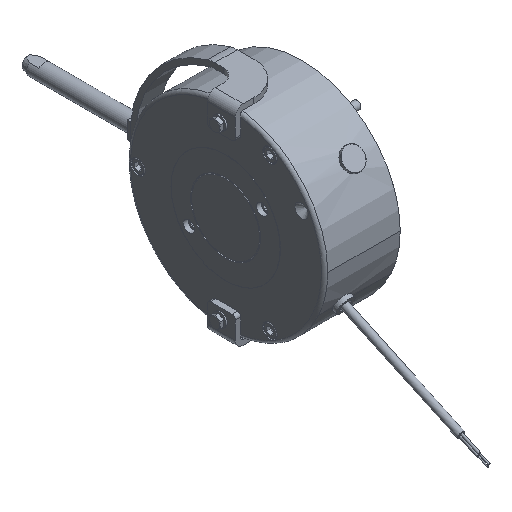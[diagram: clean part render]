
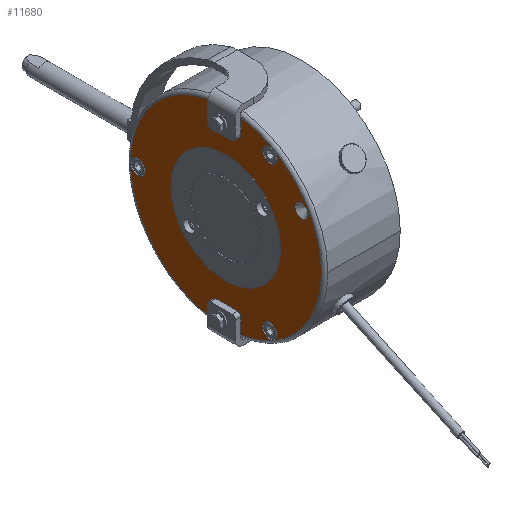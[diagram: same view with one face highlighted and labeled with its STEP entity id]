
A CAD part, isometric view. The second image highlights one B-rep face of the part: STEP entity #11680.
In plain terms, the highlighted planar face has unit normal (-1, 0, 0).
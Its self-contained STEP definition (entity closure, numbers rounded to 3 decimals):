
#781=FACE_BOUND('',#2700,.T.);
#782=FACE_BOUND('',#2701,.T.);
#783=FACE_BOUND('',#2702,.T.);
#784=FACE_BOUND('',#2703,.T.);
#785=FACE_BOUND('',#2704,.T.);
#1299=CIRCLE('',#12793,41.);
#1300=CIRCLE('',#12794,41.);
#1304=CIRCLE('',#12800,5.5);
#1305=CIRCLE('',#12801,5.5);
#1309=CIRCLE('',#12808,5.5);
#1310=CIRCLE('',#12809,5.5);
#1314=CIRCLE('',#12816,5.5);
#1315=CIRCLE('',#12817,5.5);
#1322=CIRCLE('',#12827,71.501);
#1324=CIRCLE('',#12829,71.501);
#1361=CIRCLE('',#12880,5.);
#1362=CIRCLE('',#12881,5.);
#1368=CIRCLE('',#12892,2.5);
#1369=CIRCLE('',#12893,2.5);
#1370=CIRCLE('',#12894,2.5);
#1371=CIRCLE('',#12895,2.5);
#1999=FACE_OUTER_BOUND('',#2699,.T.);
#2699=EDGE_LOOP('',(#9738,#9739,#9740,#9741,#9742,#9743,#9744,#9745,#9746,
#9747,#9748,#9749));
#2700=EDGE_LOOP('',(#9750,#9751));
#2701=EDGE_LOOP('',(#9752,#9753));
#2702=EDGE_LOOP('',(#9754,#9755));
#2703=EDGE_LOOP('',(#9756,#9757));
#2704=EDGE_LOOP('',(#9758,#9759));
#3350=LINE('',#20772,#3981);
#3351=LINE('',#20774,#3982);
#3352=LINE('',#20778,#3983);
#3353=LINE('',#20781,#3984);
#3354=LINE('',#20783,#3985);
#3355=LINE('',#20787,#3986);
#3981=VECTOR('',#15790,10.);
#3982=VECTOR('',#15791,10.);
#3983=VECTOR('',#15794,10.);
#3984=VECTOR('',#15797,10.);
#3985=VECTOR('',#15798,10.);
#3986=VECTOR('',#15801,10.);
#5095=VERTEX_POINT('',#20509);
#5096=VERTEX_POINT('',#20510);
#5100=VERTEX_POINT('',#20523);
#5101=VERTEX_POINT('',#20524);
#5105=VERTEX_POINT('',#20538);
#5106=VERTEX_POINT('',#20539);
#5110=VERTEX_POINT('',#20553);
#5111=VERTEX_POINT('',#20554);
#5115=VERTEX_POINT('',#20588);
#5116=VERTEX_POINT('',#20590);
#5117=VERTEX_POINT('',#20592);
#5118=VERTEX_POINT('',#20594);
#5160=VERTEX_POINT('',#20746);
#5161=VERTEX_POINT('',#20747);
#5168=VERTEX_POINT('',#20771);
#5169=VERTEX_POINT('',#20773);
#5170=VERTEX_POINT('',#20775);
#5171=VERTEX_POINT('',#20777);
#5172=VERTEX_POINT('',#20779);
#5173=VERTEX_POINT('',#20782);
#5174=VERTEX_POINT('',#20784);
#5175=VERTEX_POINT('',#20786);
#6638=EDGE_CURVE('',#5095,#5096,#1299,.T.);
#6639=EDGE_CURVE('',#5096,#5095,#1300,.T.);
#6645=EDGE_CURVE('',#5100,#5101,#1304,.T.);
#6646=EDGE_CURVE('',#5101,#5100,#1305,.T.);
#6652=EDGE_CURVE('',#5105,#5106,#1309,.T.);
#6653=EDGE_CURVE('',#5106,#5105,#1310,.T.);
#6659=EDGE_CURVE('',#5110,#5111,#1314,.T.);
#6660=EDGE_CURVE('',#5111,#5110,#1315,.T.);
#6669=EDGE_CURVE('',#5115,#5116,#1322,.T.);
#6671=EDGE_CURVE('',#5117,#5118,#1324,.T.);
#6725=EDGE_CURVE('',#5160,#5161,#1361,.T.);
#6726=EDGE_CURVE('',#5161,#5160,#1362,.T.);
#6737=EDGE_CURVE('',#5168,#5118,#3350,.T.);
#6738=EDGE_CURVE('',#5117,#5169,#3351,.T.);
#6739=EDGE_CURVE('',#5169,#5170,#1368,.T.);
#6740=EDGE_CURVE('',#5170,#5171,#3352,.T.);
#6741=EDGE_CURVE('',#5171,#5172,#1369,.T.);
#6742=EDGE_CURVE('',#5172,#5116,#3353,.T.);
#6743=EDGE_CURVE('',#5115,#5173,#3354,.T.);
#6744=EDGE_CURVE('',#5173,#5174,#1370,.T.);
#6745=EDGE_CURVE('',#5174,#5175,#3355,.T.);
#6746=EDGE_CURVE('',#5175,#5168,#1371,.T.);
#9738=ORIENTED_EDGE('',*,*,#6737,.T.);
#9739=ORIENTED_EDGE('',*,*,#6671,.F.);
#9740=ORIENTED_EDGE('',*,*,#6738,.T.);
#9741=ORIENTED_EDGE('',*,*,#6739,.T.);
#9742=ORIENTED_EDGE('',*,*,#6740,.T.);
#9743=ORIENTED_EDGE('',*,*,#6741,.T.);
#9744=ORIENTED_EDGE('',*,*,#6742,.T.);
#9745=ORIENTED_EDGE('',*,*,#6669,.F.);
#9746=ORIENTED_EDGE('',*,*,#6743,.T.);
#9747=ORIENTED_EDGE('',*,*,#6744,.T.);
#9748=ORIENTED_EDGE('',*,*,#6745,.T.);
#9749=ORIENTED_EDGE('',*,*,#6746,.T.);
#9750=ORIENTED_EDGE('',*,*,#6725,.T.);
#9751=ORIENTED_EDGE('',*,*,#6726,.T.);
#9752=ORIENTED_EDGE('',*,*,#6638,.T.);
#9753=ORIENTED_EDGE('',*,*,#6639,.T.);
#9754=ORIENTED_EDGE('',*,*,#6645,.T.);
#9755=ORIENTED_EDGE('',*,*,#6646,.T.);
#9756=ORIENTED_EDGE('',*,*,#6652,.T.);
#9757=ORIENTED_EDGE('',*,*,#6653,.T.);
#9758=ORIENTED_EDGE('',*,*,#6659,.T.);
#9759=ORIENTED_EDGE('',*,*,#6660,.T.);
#10487=PLANE('',#12891);
#11680=ADVANCED_FACE('',(#1999,#781,#782,#783,#784,#785),#10487,.T.);
#12793=AXIS2_PLACEMENT_3D('',#20511,#15568,#15569);
#12794=AXIS2_PLACEMENT_3D('',#20512,#15570,#15571);
#12800=AXIS2_PLACEMENT_3D('',#20525,#15584,#15585);
#12801=AXIS2_PLACEMENT_3D('',#20526,#15586,#15587);
#12808=AXIS2_PLACEMENT_3D('',#20540,#15602,#15603);
#12809=AXIS2_PLACEMENT_3D('',#20541,#15604,#15605);
#12816=AXIS2_PLACEMENT_3D('',#20555,#15620,#15621);
#12817=AXIS2_PLACEMENT_3D('',#20556,#15622,#15623);
#12827=AXIS2_PLACEMENT_3D('',#20591,#15643,#15644);
#12829=AXIS2_PLACEMENT_3D('',#20595,#15647,#15648);
#12880=AXIS2_PLACEMENT_3D('',#20748,#15761,#15762);
#12881=AXIS2_PLACEMENT_3D('',#20749,#15763,#15764);
#12891=AXIS2_PLACEMENT_3D('',#20770,#15788,#15789);
#12892=AXIS2_PLACEMENT_3D('',#20776,#15792,#15793);
#12893=AXIS2_PLACEMENT_3D('',#20780,#15795,#15796);
#12894=AXIS2_PLACEMENT_3D('',#20785,#15799,#15800);
#12895=AXIS2_PLACEMENT_3D('',#20788,#15802,#15803);
#15568=DIRECTION('center_axis',(1.,0.,0.));
#15569=DIRECTION('ref_axis',(0.,1.,0.));
#15570=DIRECTION('center_axis',(1.,0.,0.));
#15571=DIRECTION('ref_axis',(0.,1.,0.));
#15584=DIRECTION('center_axis',(1.,0.,0.));
#15585=DIRECTION('ref_axis',(0.,0.,1.));
#15586=DIRECTION('center_axis',(1.,0.,0.));
#15587=DIRECTION('ref_axis',(0.,0.,1.));
#15602=DIRECTION('center_axis',(1.,0.,0.));
#15603=DIRECTION('ref_axis',(0.,0.,1.));
#15604=DIRECTION('center_axis',(1.,0.,0.));
#15605=DIRECTION('ref_axis',(0.,0.,1.));
#15620=DIRECTION('center_axis',(1.,0.,0.));
#15621=DIRECTION('ref_axis',(0.,0.,1.));
#15622=DIRECTION('center_axis',(1.,0.,0.));
#15623=DIRECTION('ref_axis',(0.,0.,1.));
#15643=DIRECTION('center_axis',(1.,0.,0.));
#15644=DIRECTION('ref_axis',(0.,-1.,0.));
#15647=DIRECTION('center_axis',(1.,0.,0.));
#15648=DIRECTION('ref_axis',(0.,-1.,0.));
#15761=DIRECTION('center_axis',(1.,0.,0.));
#15762=DIRECTION('ref_axis',(0.,0.,1.));
#15763=DIRECTION('center_axis',(1.,0.,0.));
#15764=DIRECTION('ref_axis',(0.,0.,1.));
#15788=DIRECTION('center_axis',(-1.,0.,0.));
#15789=DIRECTION('ref_axis',(0.,0.,1.));
#15790=DIRECTION('',(0.,0.,1.));
#15791=DIRECTION('',(0.,0.,1.));
#15792=DIRECTION('center_axis',(1.,0.,0.));
#15793=DIRECTION('ref_axis',(0.,0.707,0.707));
#15794=DIRECTION('',(0.,-1.,0.));
#15795=DIRECTION('center_axis',(1.,0.,0.));
#15796=DIRECTION('ref_axis',(0.,-0.707,0.707));
#15797=DIRECTION('',(0.,0.,-1.));
#15798=DIRECTION('',(0.,0.,-1.));
#15799=DIRECTION('center_axis',(1.,0.,0.));
#15800=DIRECTION('ref_axis',(0.,-0.707,-0.707));
#15801=DIRECTION('',(0.,1.,0.));
#15802=DIRECTION('center_axis',(1.,0.,0.));
#15803=DIRECTION('ref_axis',(0.,0.707,-0.707));
#20509=CARTESIAN_POINT('',(-56.9,41.,0.));
#20510=CARTESIAN_POINT('',(-56.9,-41.,0.));
#20511=CARTESIAN_POINT('Origin',(-56.9,0.,0.));
#20512=CARTESIAN_POINT('Origin',(-56.9,0.,0.));
#20523=CARTESIAN_POINT('',(-56.9,66.,5.5));
#20524=CARTESIAN_POINT('',(-56.9,66.,-5.5));
#20525=CARTESIAN_POINT('Origin',(-56.9,66.,0.));
#20526=CARTESIAN_POINT('Origin',(-56.9,66.,0.));
#20538=CARTESIAN_POINT('',(-56.9,-33.,-51.658));
#20539=CARTESIAN_POINT('',(-56.9,-33.,-62.658));
#20540=CARTESIAN_POINT('Origin',(-56.9,-33.,-57.158));
#20541=CARTESIAN_POINT('Origin',(-56.9,-33.,-57.158));
#20553=CARTESIAN_POINT('',(-56.9,-33.,62.658));
#20554=CARTESIAN_POINT('',(-56.9,-33.,51.658));
#20555=CARTESIAN_POINT('Origin',(-56.9,-33.,57.158));
#20556=CARTESIAN_POINT('Origin',(-56.9,-33.,57.158));
#20588=CARTESIAN_POINT('',(-56.9,-11.,70.65));
#20590=CARTESIAN_POINT('',(-56.9,-11.,-70.65));
#20591=CARTESIAN_POINT('Origin',(-56.9,0.,0.));
#20592=CARTESIAN_POINT('',(-56.9,10.,-70.798));
#20594=CARTESIAN_POINT('',(-56.9,10.,70.798));
#20595=CARTESIAN_POINT('Origin',(-56.9,0.,0.));
#20746=CARTESIAN_POINT('',(-56.9,-56.811,37.8));
#20747=CARTESIAN_POINT('',(-56.9,-56.811,27.8));
#20748=CARTESIAN_POINT('Origin',(-56.9,-56.811,32.8));
#20749=CARTESIAN_POINT('Origin',(-56.9,-56.811,32.8));
#20770=CARTESIAN_POINT('Origin',(-56.9,57.5,0.));
#20771=CARTESIAN_POINT('',(-56.9,10.,59.));
#20772=CARTESIAN_POINT('',(-56.9,10.,37.25));
#20773=CARTESIAN_POINT('',(-56.9,10.,-59.));
#20774=CARTESIAN_POINT('',(-56.9,10.,-39.25));
#20775=CARTESIAN_POINT('',(-56.9,7.5,-56.5));
#20776=CARTESIAN_POINT('Origin',(-56.9,7.5,-59.));
#20777=CARTESIAN_POINT('',(-56.9,-8.5,-56.5));
#20778=CARTESIAN_POINT('',(-56.9,33.75,-56.5));
#20779=CARTESIAN_POINT('',(-56.9,-11.,-59.));
#20780=CARTESIAN_POINT('Origin',(-56.9,-8.5,-59.));
#20781=CARTESIAN_POINT('',(-56.9,-11.,-37.25));
#20782=CARTESIAN_POINT('',(-56.9,-11.,59.));
#20783=CARTESIAN_POINT('',(-56.9,-11.,39.25));
#20784=CARTESIAN_POINT('',(-56.9,-8.5,56.5));
#20785=CARTESIAN_POINT('Origin',(-56.9,-8.5,59.));
#20786=CARTESIAN_POINT('',(-56.9,7.5,56.5));
#20787=CARTESIAN_POINT('',(-56.9,23.25,56.5));
#20788=CARTESIAN_POINT('Origin',(-56.9,7.5,59.));
